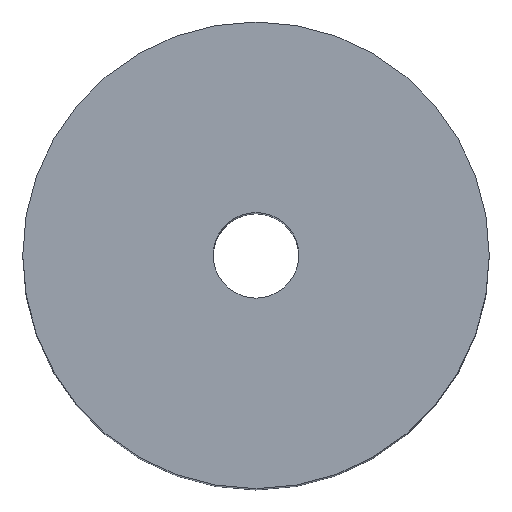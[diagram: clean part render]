
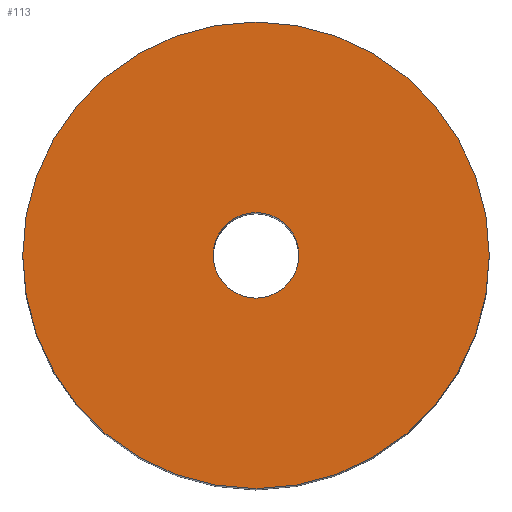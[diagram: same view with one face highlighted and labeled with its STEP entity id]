
A CAD part, top view. The second image highlights one B-rep face of the part: STEP entity #113.
In plain terms, the highlighted planar face has unit normal (0, 0, 1).
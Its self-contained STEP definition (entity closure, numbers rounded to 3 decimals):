
#113=ADVANCED_FACE('',(#121,#122),#119,.T.);
#119=PLANE('',#190);
#121=FACE_BOUND('',#125,.T.);
#122=FACE_BOUND('',#126,.T.);
#125=EDGE_LOOP('',(#133,#134));
#126=EDGE_LOOP('',(#135,#136));
#133=ORIENTED_EDGE('',*,*,#165,.T.);
#134=ORIENTED_EDGE('',*,*,#166,.T.);
#135=ORIENTED_EDGE('',*,*,#167,.F.);
#136=ORIENTED_EDGE('',*,*,#168,.F.);
#157=VERTEX_POINT('',#236);
#158=VERTEX_POINT('',#237);
#159=VERTEX_POINT('',#240);
#160=VERTEX_POINT('',#241);
#165=EDGE_CURVE('',#157,#158,#177,.T.);
#166=EDGE_CURVE('',#158,#157,#178,.T.);
#167=EDGE_CURVE('',#159,#160,#179,.T.);
#168=EDGE_CURVE('',#160,#159,#180,.T.);
#177=CIRCLE('',#186,60.);
#178=CIRCLE('',#187,60.);
#179=CIRCLE('',#188,11.);
#180=CIRCLE('',#189,11.);
#186=AXIS2_PLACEMENT_3D('',#235,#202,#203);
#187=AXIS2_PLACEMENT_3D('',#238,#204,#205);
#188=AXIS2_PLACEMENT_3D('',#239,#206,#207);
#189=AXIS2_PLACEMENT_3D('',#242,#208,#209);
#190=AXIS2_PLACEMENT_3D('',#243,#210,#211);
#202=DIRECTION('',(0.,0.,1.));
#203=DIRECTION('',(0.,1.,0.));
#204=DIRECTION('',(0.,0.,1.));
#205=DIRECTION('',(0.,-1.,0.));
#206=DIRECTION('',(0.,0.,1.));
#207=DIRECTION('',(0.,-1.,0.));
#208=DIRECTION('',(0.,0.,1.));
#209=DIRECTION('',(0.,1.,0.));
#210=DIRECTION('',(0.,0.,1.));
#211=DIRECTION('',(0.,1.,0.));
#235=CARTESIAN_POINT('',(0.,0.,200.));
#236=CARTESIAN_POINT('',(-60.,0.,200.));
#237=CARTESIAN_POINT('',(60.,0.,200.));
#238=CARTESIAN_POINT('',(0.,0.,200.));
#239=CARTESIAN_POINT('',(0.,0.,200.));
#240=CARTESIAN_POINT('',(11.,0.,200.));
#241=CARTESIAN_POINT('',(-11.,0.,200.));
#242=CARTESIAN_POINT('',(0.,0.,200.));
#243=CARTESIAN_POINT('',(0.,0.,200.));
